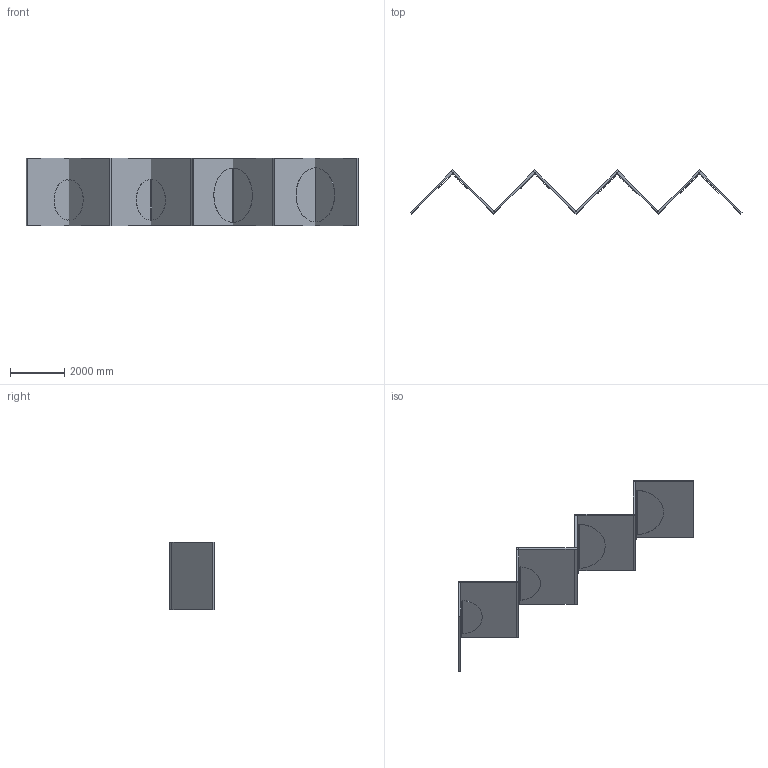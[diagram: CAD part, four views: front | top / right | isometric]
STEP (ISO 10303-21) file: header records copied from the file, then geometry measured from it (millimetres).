
FILE_DESCRIPTION(/* description */ (''),/* implementation_level */ '2;1');
FILE_NAME(/* name */ '3D model_Luna Corner L and M_2869',/* time_stamp */ '2023-01-18T14:01:38+01:00',/* author */ (''),/* organization */ (''),/* preprocessor_version */ 'ST-DEVELOPER v16.5',/* originating_system */ '',/* authorisation */ '');
FILE_SCHEMA (('AUTOMOTIVE_DESIGN'));
Length unit declared in the file: millimetre
Products named in the file (1): Document
Bounding box: 12280.79 x 1631.04 x 2500 mm (x, y, z)
Volume: 5219103576.6 mm3; surface area: 164154831.9 mm2
Topology: 30 solids, 54 shells, 314 faces, 780 edges, 544 vertices
Faces by surface type: plane 206, bspline 108
Entity records: 12470 total; most frequent: CARTESIAN_POINT 7354, ORIENTED_EDGE 1416, EDGE_CURVE 776, VERTEX_POINT 536, B_SPLINE_CURVE_WITH_KNOTS 472, EDGE_LOOP 334, ADVANCED_FACE 314, FACE_OUTER_BOUND 314
